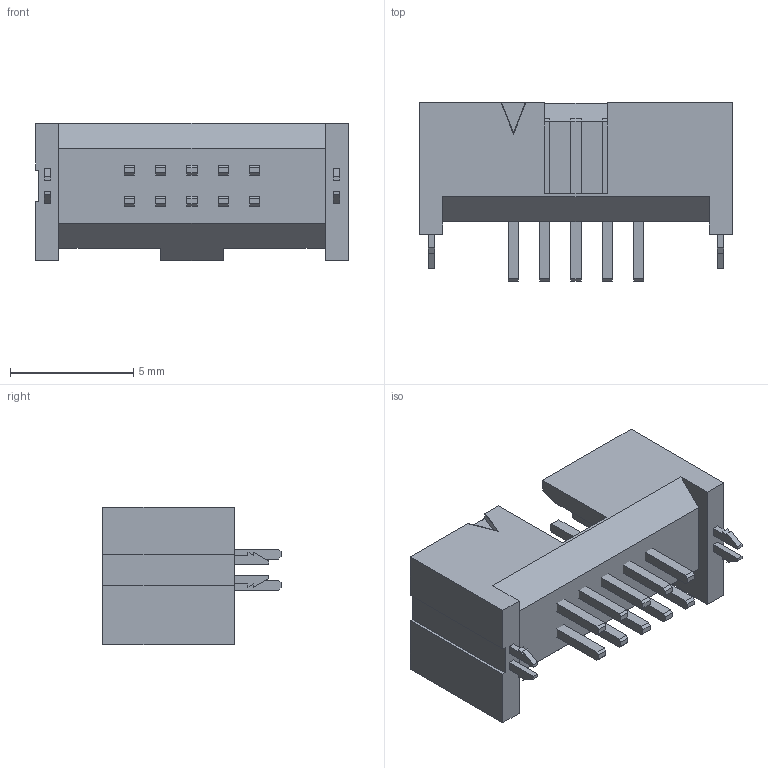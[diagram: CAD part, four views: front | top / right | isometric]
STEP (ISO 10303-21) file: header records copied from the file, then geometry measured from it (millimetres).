
FILE_DESCRIPTION(/* description */ ('STEP AP214'),/* implementation_level */ '2;1');
FILE_NAME(/* name */ 'SHF-105-01-L-D-TH-LC',/* time_stamp */ '2023-07-11T21:42:10+02:00',/* author */ ('License CC BY-ND 4.0'),/* organization */ ('CADENAS'),/* preprocessor_version */ 'ST-DEVELOPER v19.3',/* originating_system */ 'PARTsolutions',/* authorisation */ ' ');
FILE_SCHEMA (('AUTOMOTIVE_DESIGN {1 0 10303 214 3 1 1}'));
Length unit declared in the file: inch
Products named in the file (4): SHF-105-01-L-D-TH-LC; T-1S71-02-05-D-TH; SHF-First_Position_Indicator; SHF-105-01-D-LC_header
Assembly tree (3 placements, depth 2):
  SHF-105-01-L-D-TH-LC
    T-1S71-02-05-D-TH
    SHF-First_Position_Indicator
    SHF-105-01-D-LC_header
Bounding box: 12.7 x 7.24 x 5.59 mm (x, y, z)
Volume: 175.1 mm3; surface area: 542.7 mm2
Topology: 3 solids, 3 shells, 200 faces, 566 edges, 376 vertices
Faces by surface type: plane 200
Entity records: 6443 total; most frequent: CARTESIAN_POINT 1146, ORIENTED_EDGE 1132, DIRECTION 974, EDGE_CURVE 566, LINE 566, VECTOR 566, VERTEX_POINT 376, EDGE_LOOP 204
